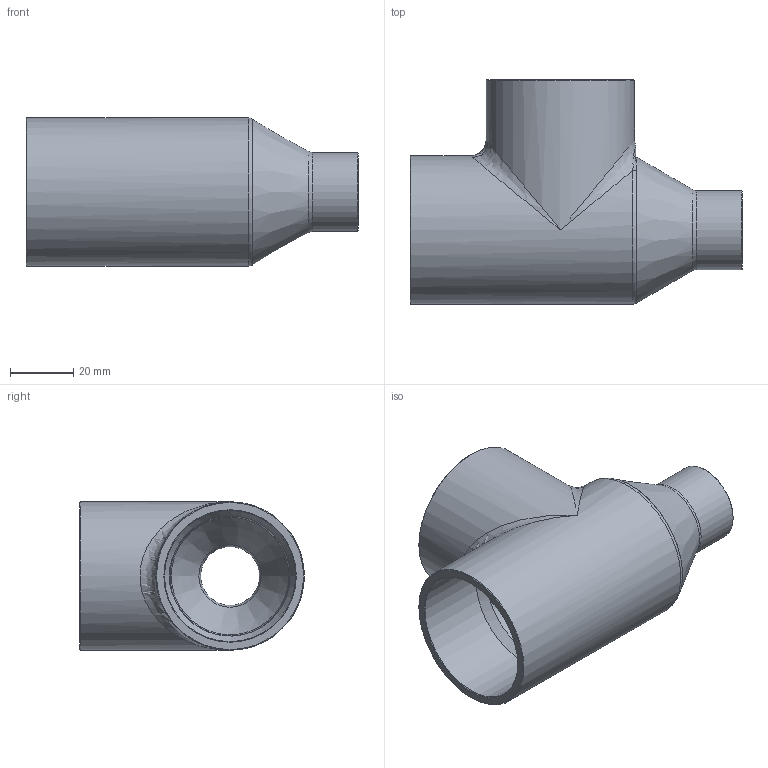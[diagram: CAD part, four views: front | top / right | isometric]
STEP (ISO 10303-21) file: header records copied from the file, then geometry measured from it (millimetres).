
FILE_DESCRIPTION((''),'2;1');
FILE_NAME('G:\SANHA-Ternat\Technik\Management\Bouwmaten + markeringen\z-maattekeningen 3D\29000s\2913015815834_3d.stp','2017-08-03T12:57:24',('vdvijverd'),(''),'Autodesk Inventor 2009','Autodesk Inventor 2009','');
FILE_SCHEMA(('AUTOMOTIVE_DESIGN { 1 0 10303 214 1 1 1 1 }'));
Length unit declared in the file: millimetre
Products named in the file (1): 2913015815834_3d
Bounding box: 104.9 x 70.95 x 46.9 mm (x, y, z)
Volume: 53886 mm3; surface area: 32122.2 mm2
Topology: 1 solids, 1 shells, 36 faces, 91 edges, 48 vertices
Faces by surface type: bspline 10, cone 10, cylinder 9, plane 4, torus 3
Full cylindrical faces by diameter (mm): 19.17 x1, 24.97 x1, 38 x1, 41.455 x2, 46.9 x2
Entity records: 2122 total; most frequent: CARTESIAN_POINT 1436, DIRECTION 142, ORIENTED_EDGE 106, AXIS2_PLACEMENT_3D 71, EDGE_LOOP 61, EDGE_CURVE 53, VERTEX_POINT 40, FACE_OUTER_BOUND 36
